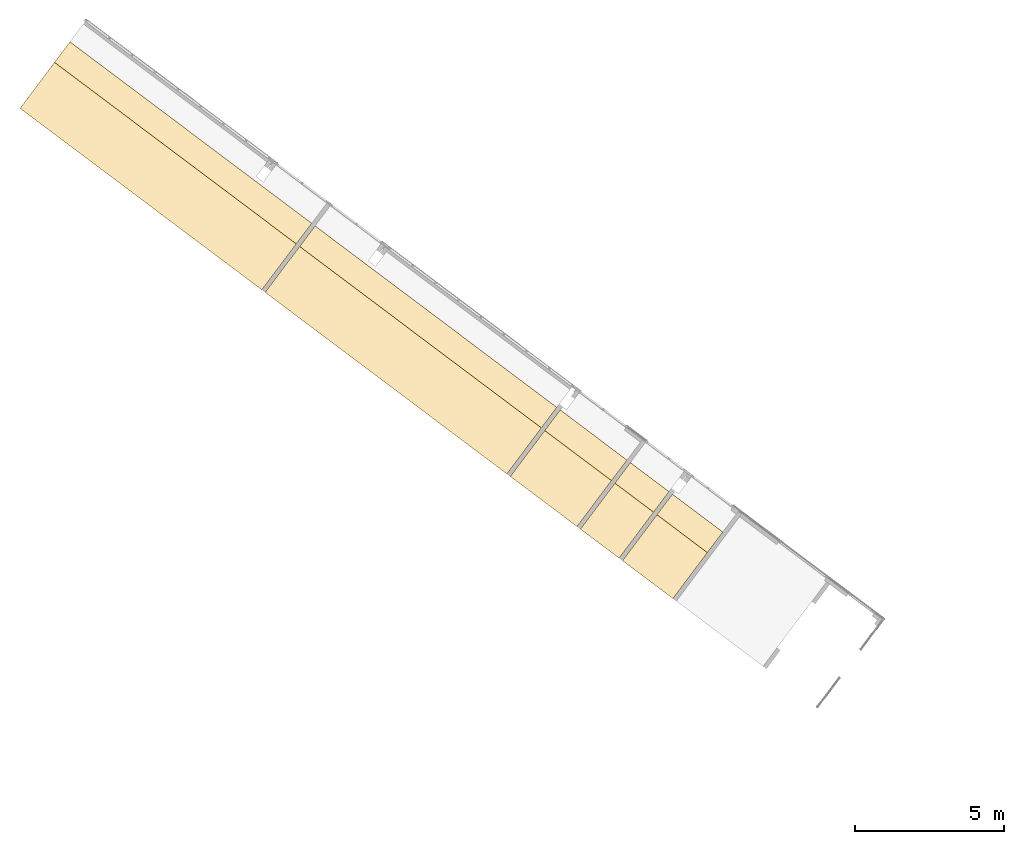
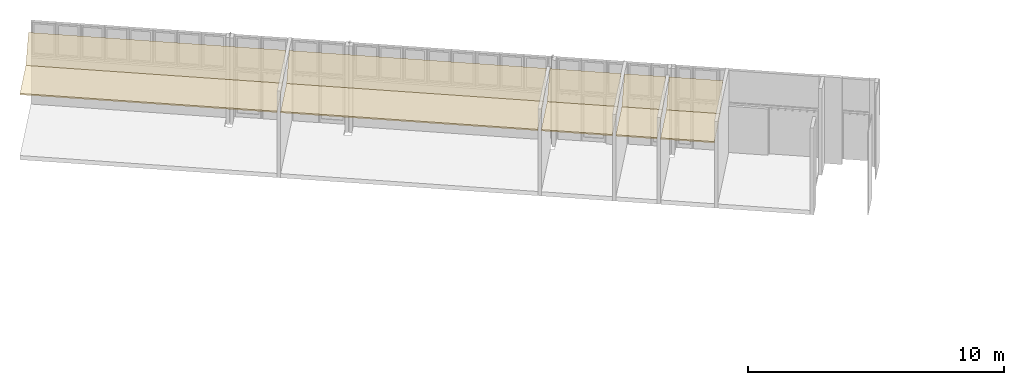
# One storey, part 12 of 18: 10 coverings.
"""IFC2X3 building model written with IfcOpenShell, lengths in metres."""

from ifc_helpers import new_model, entity, si_unit, converted_unit, derived_unit, direction, frame, frame_2d, origin, origin_2d_with_axis, place, context, subcontext, project, spatial, rectangle, extrude, faceted_brep, material, layer, layer_set, layer_usage, type_object, element, save


model = new_model("IFC2X3")

# Units and contexts
model_context = context("Model", 3, precision=1e-05, world=origin(), true_north=direction((6.123031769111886e-17, 1.0)))
body_context = subcontext(model_context, "Body", "Model", "MODEL_VIEW")
ifc_project = project(units=[si_unit("LENGTHUNIT", "METRE"), si_unit("AREAUNIT", "SQUARE_METRE"), si_unit("VOLUMEUNIT", "CUBIC_METRE"), converted_unit("PLANEANGLEUNIT", "DEGREE", entity("IfcRatioMeasure", 0.017453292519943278), si_unit("PLANEANGLEUNIT", "RADIAN"), dimensions=[0, 0, 0, 0, 0, 0, 0]), si_unit("MASSUNIT", "GRAM", prefix="KILO"), derived_unit("MASSDENSITYUNIT", [(si_unit("MASSUNIT", "GRAM", prefix="KILO"), 1), (si_unit("LENGTHUNIT", "METRE"), -3)]), derived_unit("IONCONCENTRATIONUNIT", [(si_unit("MASSUNIT", "GRAM", prefix="KILO"), 1), (si_unit("LENGTHUNIT", "METRE"), -3)]), derived_unit("MOMENTOFINERTIAUNIT", [(si_unit("LENGTHUNIT", "METRE"), 4)]), si_unit("TIMEUNIT", "SECOND"), si_unit("FREQUENCYUNIT", "HERTZ"), si_unit("THERMODYNAMICTEMPERATUREUNIT", "DEGREE_CELSIUS"), derived_unit("THERMALTRANSMITTANCEUNIT", [(si_unit("MASSUNIT", "GRAM", prefix="KILO"), 1), (si_unit("THERMODYNAMICTEMPERATUREUNIT", "KELVIN"), -1), (si_unit("TIMEUNIT", "SECOND"), -3)]), derived_unit("THERMALCONDUCTANCEUNIT", [(si_unit("MASSUNIT", "GRAM", prefix="KILO"), 1), (si_unit("THERMODYNAMICTEMPERATUREUNIT", "KELVIN"), -1), (si_unit("TIMEUNIT", "SECOND"), -3), (si_unit("LENGTHUNIT", "METRE"), 1)]), derived_unit("VOLUMETRICFLOWRATEUNIT", [(si_unit("LENGTHUNIT", "METRE"), 3), (si_unit("TIMEUNIT", "SECOND"), -1)]), derived_unit("MASSFLOWRATEUNIT", [(si_unit("MASSUNIT", "GRAM", prefix="KILO"), 1), (si_unit("TIMEUNIT", "SECOND"), -1)]), derived_unit("ROTATIONALFREQUENCYUNIT", [(si_unit("TIMEUNIT", "SECOND"), -1)]), si_unit("ELECTRICCURRENTUNIT", "AMPERE"), si_unit("ELECTRICVOLTAGEUNIT", "VOLT"), si_unit("POWERUNIT", "WATT"), si_unit("FORCEUNIT", "NEWTON", prefix="KILO"), si_unit("ILLUMINANCEUNIT", "LUX"), si_unit("LUMINOUSFLUXUNIT", "LUMEN"), si_unit("LUMINOUSINTENSITYUNIT", "CANDELA"), derived_unit("USERDEFINED", [(si_unit("MASSUNIT", "GRAM", prefix="KILO"), -1), (si_unit("LENGTHUNIT", "METRE"), -2), (si_unit("TIMEUNIT", "SECOND"), 3), (si_unit("LUMINOUSFLUXUNIT", "LUMEN"), 1)]), derived_unit("USERDEFINED", [(si_unit("MASSUNIT", "GRAM", prefix="KILO"), 1), (si_unit("TIMEUNIT", "SECOND"), -3), (si_unit("LENGTHUNIT", "METRE"), 3), (si_unit("ELECTRICCURRENTUNIT", "AMPERE"), -2)]), derived_unit("SOUNDPOWERUNIT", [(si_unit("MASSUNIT", "GRAM", prefix="KILO"), 1), (si_unit("TIMEUNIT", "SECOND"), -3), (si_unit("LENGTHUNIT", "METRE"), 2)]), derived_unit("SOUNDPRESSUREUNIT", [(si_unit("MASSUNIT", "GRAM", prefix="KILO"), 1), (si_unit("LENGTHUNIT", "METRE"), -1), (si_unit("TIMEUNIT", "SECOND"), -2)]), derived_unit("LINEARVELOCITYUNIT", [(si_unit("LENGTHUNIT", "METRE"), 1), (si_unit("TIMEUNIT", "SECOND"), -1)]), si_unit("PRESSUREUNIT", "PASCAL"), derived_unit("USERDEFINED", [(si_unit("MASSUNIT", "GRAM", prefix="KILO"), 1), (si_unit("LENGTHUNIT", "METRE"), -2), (si_unit("TIMEUNIT", "SECOND"), -2)]), derived_unit("LINEARFORCEUNIT", [(si_unit("MASSUNIT", "GRAM", prefix="KILO"), 1), (si_unit("TIMEUNIT", "SECOND"), -2)]), derived_unit("PLANARFORCEUNIT", [(si_unit("MASSUNIT", "GRAM", prefix="KILO"), 1), (si_unit("LENGTHUNIT", "METRE"), -1), (si_unit("TIMEUNIT", "SECOND"), -2)]), derived_unit("SPECIFICHEATCAPACITYUNIT", [(si_unit("THERMODYNAMICTEMPERATUREUNIT", "KELVIN"), -1), (si_unit("LENGTHUNIT", "METRE"), 2), (si_unit("TIMEUNIT", "SECOND"), -2)]), derived_unit("HEATINGVALUEUNIT", [(si_unit("LENGTHUNIT", "METRE"), 2), (si_unit("TIMEUNIT", "SECOND"), -2)]), derived_unit("VAPORPERMEABILITYUNIT", [(si_unit("LENGTHUNIT", "METRE"), -1), (si_unit("TIMEUNIT", "SECOND"), 1)]), derived_unit("DYNAMICVISCOSITYUNIT", [(si_unit("MASSUNIT", "GRAM", prefix="KILO"), 1), (si_unit("TIMEUNIT", "SECOND"), -1), (si_unit("LENGTHUNIT", "METRE"), -1)]), derived_unit("THERMALEXPANSIONCOEFFICIENTUNIT", [(si_unit("THERMODYNAMICTEMPERATUREUNIT", "KELVIN"), -1)]), derived_unit("MODULUSOFELASTICITYUNIT", [(si_unit("MASSUNIT", "GRAM", prefix="KILO"), 1), (si_unit("LENGTHUNIT", "METRE"), -1), (si_unit("TIMEUNIT", "SECOND"), -2)]), derived_unit("ISOTHERMALMOISTURECAPACITYUNIT", [(si_unit("LENGTHUNIT", "METRE"), 3), (si_unit("MASSUNIT", "GRAM", prefix="KILO"), -1)]), derived_unit("MOISTUREDIFFUSIVITYUNIT", [(si_unit("TIMEUNIT", "SECOND"), -1), (si_unit("LENGTHUNIT", "METRE"), 2)])], contexts=[model_context])

# Site, building, storey
site_placement = place(None, frame((0.0, 0.0, 235.0), z_axis=(0.0, 0.0, 1.0), x_axis=(-0.7996477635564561, 0.6004693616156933, 0.0)))
site = spatial("IfcSite", under=ifc_project, at=site_placement, Name="Default", CompositionType="ELEMENT")
building_placement = place(site_placement, origin())
building = spatial("IfcBuilding", under=site, at=building_placement, CompositionType="ELEMENT")
storey_placement = place(building_placement, frame((0.0, 0.0, -4.459999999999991)))
storey = spatial("IfcBuildingStorey", under=building, at=storey_placement, Name="PS1- Vestuari", CompositionType="ELEMENT", Elevation=-4.459999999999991)

# Coverings
ifc_material_1 = material(Name="_Aillament")
ifc_layer_1 = layer(ifc_material_1, 0.02)
ifc_material_2 = material(Name="_PYL- SOS")
ifc_layer_2 = layer(ifc_material_2, 0.015)
ifc_layer_set_1 = layer_set([ifc_layer_1, ifc_layer_2], Name="Techo compuesto:SOS- Guix Laminat- Aillament- 3,5 cm")
ifc_layer_usage_1 = layer_usage(ifc_layer_set_1, "AXIS3", "POSITIVE", 0.0)
covering_type_1 = type_object("IfcCoveringType", Name="Techo compuesto:SOS- Guix Laminat- Aillament- 3,5 cm", PredefinedType="CEILING")
covering_1_placement = place(storey_placement, frame((54.045147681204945, -39.552191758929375, 2.8999999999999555)))
element("IfcCovering", 1, at=covering_1_placement, inside=storey, type_object=covering_type_1, material=ifc_layer_usage_1, Name="Techo compuesto:SOS- Guix Laminat- Aillament- 3,5 cm", ObjectType="Techo compuesto:SOS- Guix Laminat- Aillament- 3,5 cm", PredefinedType="CEILING", context=body_context, shape_type="Brep", body=[
    faceted_brep([(0.0, 0.0, 1.0422686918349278), (10.13, 0.0, 1.042268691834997), (10.13, 0.8620000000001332, 0.05326869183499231), (0.0, 0.8620000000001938, 0.053268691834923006), (0.0, 0.0, 0.9890000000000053), (0.0, 0.8620000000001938, 0.0), (10.13, 0.8620000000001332, 0.0), (10.13, 0.0, 0.9890000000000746), (10.13, 0.0, 1.040000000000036), (10.13, 0.0, 0.990000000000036), (0.0, 0.0, 0.990000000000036), (0.0, 0.0, 1.040000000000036)], [[[0, 1, 2, 3]], [[4, 5, 6, 7]], [[2, 1, 8, 9, 7, 6]], [[3, 2, 6, 5]], [[0, 3, 5, 4, 10, 11]], [[1, 0, 11, 10, 4, 7, 9, 8]]]),
])
covering_2_placement = place(storey_placement, frame((64.31514768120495, -39.552191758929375, 2.8999999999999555)))
element("IfcCovering", 2, at=covering_2_placement, inside=storey, type_object=covering_type_1, material=ifc_layer_usage_1, Name="Techo compuesto:SOS- Guix Laminat- Aillament- 3,5 cm", ObjectType="Techo compuesto:SOS- Guix Laminat- Aillament- 3,5 cm", PredefinedType="CEILING", context=body_context, shape_type="Brep", body=[
    faceted_brep([(10.13, 0.0, 1.0422686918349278), (10.129999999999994, 0.8620000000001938, 0.053268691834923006), (0.0, 0.8620000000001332, 0.05326869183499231), (0.0, 0.0, 1.042268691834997), (10.13, 0.0, 0.9890000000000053), (0.0, 0.0, 0.9890000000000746), (0.0, 0.8620000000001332, 0.0), (10.129999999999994, 0.8620000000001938, 0.0), (0.0, 0.0, 0.990000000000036), (0.0, 0.0, 1.040000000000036), (10.13, 0.0, 1.040000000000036), (10.13, 0.0, 0.990000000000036)], [[[0, 1, 2, 3]], [[4, 5, 6, 7]], [[3, 2, 6, 5, 8, 9]], [[2, 1, 7, 6]], [[1, 0, 10, 11, 4, 7]], [[0, 3, 9, 8, 5, 4, 11, 10]]]),
])
covering_3_placement = place(storey_placement, frame((51.10614768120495, -39.55219175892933, 2.89999999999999)))
element("IfcCovering", 3, at=covering_3_placement, inside=storey, type_object=covering_type_1, material=ifc_layer_usage_1, Name="Techo compuesto:SOS- Guix Laminat- Aillament- 3,5 cm", ObjectType="Techo compuesto:SOS- Guix Laminat- Aillament- 3,5 cm", PredefinedType="CEILING", context=body_context, shape_type="Brep", body=[
    faceted_brep([(2.7989999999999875, 0.0, 1.0422686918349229), (2.7989999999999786, 0.8620000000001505, 0.053268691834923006), (0.0, 0.8620000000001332, 0.0532686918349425), (0.0, 0.0, 1.0422686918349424), (2.7989999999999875, 0.0, 0.9890000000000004), (0.0, 0.0, 0.9890000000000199), (0.0, 0.8620000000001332, 0.0), (2.7989999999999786, 0.8620000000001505, 0.0), (0.0, 0.0, 0.9900000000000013), (0.0, 0.0, 1.0400000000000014), (2.7989999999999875, 0.0, 1.0400000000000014), (2.7989999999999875, 0.0, 0.9900000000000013)], [[[0, 1, 2, 3]], [[4, 5, 6, 7]], [[3, 2, 6, 5, 8, 9]], [[2, 1, 7, 6]], [[1, 0, 10, 11, 4, 7]], [[0, 3, 9, 8, 5, 4, 11, 10]]]),
])
covering_4_placement = place(storey_placement, frame((49.345147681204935, -39.55219175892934, 2.8999999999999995)))
element("IfcCovering", 4, at=covering_4_placement, inside=storey, type_object=covering_type_1, material=ifc_layer_usage_1, Name="Techo compuesto:SOS- Guix Laminat- Aillament- 3,5 cm", ObjectType="Techo compuesto:SOS- Guix Laminat- Aillament- 3,5 cm", PredefinedType="CEILING", context=body_context, shape_type="Brep", body=[
    faceted_brep([(0.0, 0.0, 1.0422686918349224), (1.6209999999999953, 0.0, 1.042268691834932), (1.6209999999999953, 0.8620000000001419, 0.053268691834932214), (0.0, 0.8620000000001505, 0.053268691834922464), (0.0, 0.0, 0.9889999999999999), (0.0, 0.8620000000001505, 0.0), (1.6209999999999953, 0.8620000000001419, 0.0), (1.6209999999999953, 0.0, 0.9890000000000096), (1.6209999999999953, 0.0, 1.039999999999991), (1.6209999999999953, 0.0, 0.989999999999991), (0.0, 0.0, 0.989999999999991), (0.0, 0.0, 1.039999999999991)], [[[0, 1, 2, 3]], [[4, 5, 6, 7]], [[2, 1, 8, 9, 7, 6]], [[3, 2, 6, 5]], [[0, 3, 5, 4, 10, 11]], [[1, 0, 11, 10, 4, 7, 9, 8]]]),
])
covering_5_placement = place(storey_placement, frame((47.09014768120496, -39.55219175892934, 2.8999999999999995)))
element("IfcCovering", 5, at=covering_5_placement, inside=storey, type_object=covering_type_1, material=ifc_layer_usage_1, Name="Techo compuesto:SOS- Guix Laminat- Aillament- 3,5 cm", ObjectType="Techo compuesto:SOS- Guix Laminat- Aillament- 3,5 cm", PredefinedType="CEILING", context=body_context, shape_type="Brep", body=[
    faceted_brep([(2.115000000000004, 0.0, 1.0422686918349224), (2.1149999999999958, 0.8620000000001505, 0.053268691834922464), (0.0, 0.8620000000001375, 0.053268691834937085), (0.0, 0.0, 1.0422686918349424), (2.115000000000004, 0.0, 0.9889999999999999), (0.0, 0.0, 0.9890000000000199), (0.0, 0.8620000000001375, 0.0), (2.1149999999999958, 0.8620000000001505, 0.0), (0.0, 0.0, 0.989999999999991), (0.0, 0.0, 1.039999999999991), (2.115000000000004, 0.0, 1.039999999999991), (2.115000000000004, 0.0, 0.989999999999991)], [[[0, 1, 2, 3]], [[4, 5, 6, 7]], [[3, 2, 6, 5, 8, 9]], [[2, 1, 7, 6]], [[1, 0, 10, 11, 4, 7]], [[0, 3, 9, 8, 5, 4, 11, 10]]]),
])
ifc_layer_3 = layer(ifc_material_1, 0.05)
ifc_layer_4 = layer(ifc_material_2, 0.015)
ifc_layer_set_2 = layer_set([ifc_layer_3, ifc_layer_4], Name="Techo compuesto:SOS- Guix Laminat Acústic- Aillament- 6,5 cm 2")
ifc_layer_usage_2 = layer_usage(ifc_layer_set_2, "AXIS3", "POSITIVE", 0.0)
covering_type_2 = type_object("IfcCoveringType", Name="Techo compuesto:SOS- Guix Laminat Acústic- Aillament- 6,5 cm 2", PredefinedType="CEILING")
covering_6_placement = place(storey_placement, frame((54.045147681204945, -38.69019175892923, 2.8999999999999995)))
element("IfcCovering", 6, at=covering_6_placement, inside=storey, type_object=covering_type_2, material=ifc_layer_usage_2, Name="Techo compuesto:SOS- Guix Laminat Acústic- Aillament- 6,5 cm 2", ObjectType="Techo compuesto:SOS- Guix Laminat Acústic- Aillament- 6,5 cm 2", PredefinedType="CEILING", context=body_context, shape_type="SweptSolid", body=[
    extrude(rectangle(XDim=10.129999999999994, YDim=1.9250000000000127, at=frame_2d((8.43769498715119e-15, -4.3298697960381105e-15), x_axis=(1.0, 0.0))), frame((5.064999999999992, 0.9625000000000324, 0.0)), (0.0, 0.0, 1.0), 0.06500000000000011),
])
covering_7_placement = place(storey_placement, frame((64.31514768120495, -38.69019175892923, 2.8999999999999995)))
element("IfcCovering", 7, at=covering_7_placement, inside=storey, type_object=covering_type_2, material=ifc_layer_usage_2, Name="Techo compuesto:SOS- Guix Laminat Acústic- Aillament- 6,5 cm 2", ObjectType="Techo compuesto:SOS- Guix Laminat Acústic- Aillament- 6,5 cm 2", PredefinedType="CEILING", context=body_context, shape_type="SweptSolid", body=[
    extrude(rectangle(XDim=1.925000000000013, YDim=10.129999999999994, at=origin_2d_with_axis()), frame((5.065, 0.9625000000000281, 0.0), z_axis=(0.0, 0.0, 1.0), x_axis=(0.0, 1.0, 0.0)), (0.0, 0.0, 1.0), 0.06500000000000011),
])
covering_8_placement = place(storey_placement, frame((51.10614768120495, -38.690191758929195, 2.8999999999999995)))
element("IfcCovering", 8, at=covering_8_placement, inside=storey, type_object=covering_type_2, material=ifc_layer_usage_2, Name="Techo compuesto:SOS- Guix Laminat Acústic- Aillament- 6,5 cm 2", ObjectType="Techo compuesto:SOS- Guix Laminat Acústic- Aillament- 6,5 cm 2", PredefinedType="CEILING", context=body_context, shape_type="SweptSolid", body=[
    extrude(rectangle(XDim=1.9250000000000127, YDim=2.7989999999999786, at=frame_2d((-4.3298697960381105e-15, 0.0), x_axis=(1.0, 0.0))), frame((1.3994999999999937, 0.9625000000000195, 0.0), z_axis=(0.0, 0.0, 1.0), x_axis=(0.0, 1.0, 0.0)), (0.0, 0.0, 1.0), 0.06500000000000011),
])
covering_9_placement = place(storey_placement, frame((49.345147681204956, -38.69019175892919, 2.8999999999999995)))
element("IfcCovering", 9, at=covering_9_placement, inside=storey, type_object=covering_type_2, material=ifc_layer_usage_2, Name="Techo compuesto:SOS- Guix Laminat Acústic- Aillament- 6,5 cm 2", ObjectType="Techo compuesto:SOS- Guix Laminat Acústic- Aillament- 6,5 cm 2", PredefinedType="CEILING", context=body_context, shape_type="SweptSolid", body=[
    extrude(rectangle(XDim=1.6209999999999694, YDim=1.9250000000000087, at=frame_2d((0.0, -2.1649348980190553e-15), x_axis=(1.0, 0.0))), frame((0.810499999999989, 0.9625000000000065, 0.0)), (0.0, 0.0, 1.0), 0.06500000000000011),
])
covering_10_placement = place(storey_placement, frame((47.09014768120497, -38.690191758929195, 2.8999999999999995)))
element("IfcCovering", 10, at=covering_10_placement, inside=storey, type_object=covering_type_2, material=ifc_layer_usage_2, Name="Techo compuesto:SOS- Guix Laminat Acústic- Aillament- 6,5 cm 2", ObjectType="Techo compuesto:SOS- Guix Laminat Acústic- Aillament- 6,5 cm 2", PredefinedType="CEILING", context=body_context, shape_type="SweptSolid", body=[
    extrude(rectangle(XDim=1.9250000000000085, YDim=2.1149999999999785, at=frame_2d((4.3298697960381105e-15, 0.0), x_axis=(1.0, 0.0))), frame((1.0574999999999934, 0.9625000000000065, 0.0), z_axis=(0.0, 0.0, 1.0), x_axis=(0.0, 1.0, 0.0)), (0.0, 0.0, 1.0), 0.06500000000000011),
])

save(model, "model.ifc")
